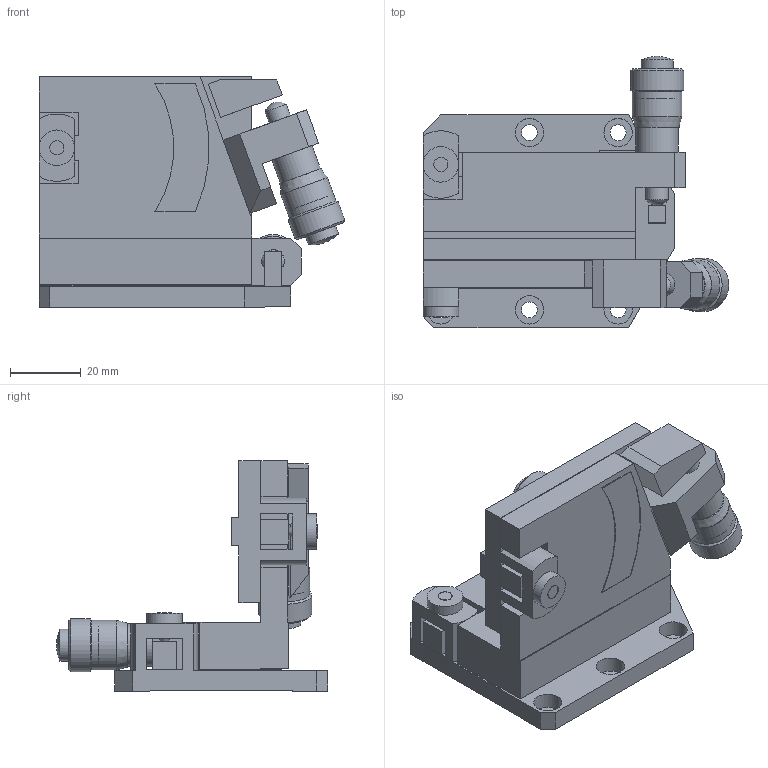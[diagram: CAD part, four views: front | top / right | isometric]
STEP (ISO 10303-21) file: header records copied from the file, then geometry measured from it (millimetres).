
FILE_DESCRIPTION( ( 'STEP AP203' ), '1' );
FILE_NAME( 'C:/Documents and Settings/09371/デスクトップ/受領データ/回転傾斜ステージ/B50-60RN.step', '2007-04-17T07:58:03', ( ' ' ), ( ' ' ), 'XStep 1.0', ' ', ' ' );
FILE_SCHEMA( ( 'CONFIG_CONTROL_DESIGN' ) );
Length unit declared in the file: millimetre
Products named in the file (5): 1; 2; 3; 4; 5
Bounding box: 86.25 x 76.5 x 65 mm (x, y, z)
Volume: 100660.6 mm3; surface area: 40381.3 mm2
Topology: 5 solids, 6 shells, 211 faces, 538 edges, 357 vertices
Faces by surface type: plane 131, cylinder 58, cone 18, bspline 2, sphere 2
Full cylindrical faces by diameter (mm): 1 x3, 1.6 x1, 2.5 x10, 3.5 x2, 4 x2, 4.5 x5, 6.35 x2, 6.5 x2, 8 x7, 9 x2, 10 x2, 10.4 x1, 12 x2, 12.1 x1, 13.6 x2, 14 x2, 15 x2
Entity records: 6076 total; most frequent: CARTESIAN_POINT 1045, DIRECTION 990, ORIENTED_EDGE 868, EDGE_CURVE 434, AXIS2_PLACEMENT_3D 344, EDGE_LOOP 337, VERTEX_POINT 327, LINE 302
